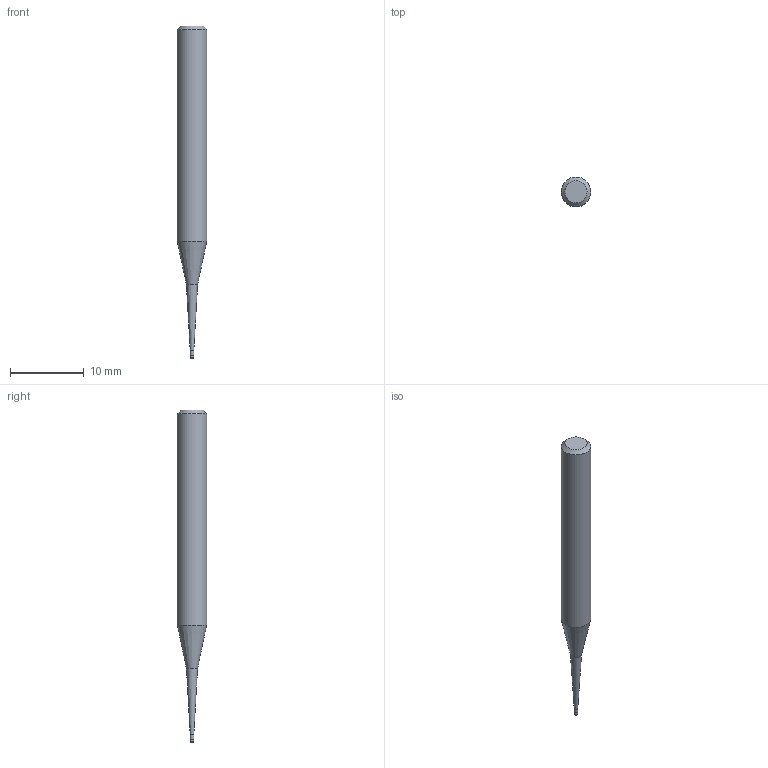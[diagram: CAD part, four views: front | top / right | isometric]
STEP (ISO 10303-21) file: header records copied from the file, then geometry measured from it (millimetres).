
FILE_DESCRIPTION((''),'2;1');
FILE_NAME('C:\Users\nsx150\AppData\Local\Temp\Mastercam 2021\YKS1SUSFZB\TEMP.step','2025-06-23T14:03:46',(''),(''),'STEP Write','Mastercam 2021 ... CNC Software, Inc.','');
FILE_SCHEMA(('AUTOMOTIVE_DESIGN'));
Length unit declared in the file: millimetre
Products named in the file (1): None
Bounding box: 4 x 4 x 45 mm (x, y, z)
Volume: 410.2 mm3; surface area: 457.1 mm2
Topology: 2 solids, 2 shells, 11 faces, 16 edges, 9 vertices
Faces by surface type: plane 4, cylinder 3, cone 3, torus 1
Full cylindrical faces by diameter (mm): 0.48 x1, 0.5 x1, 4 x1
Entity records: 253 total; most frequent: DIRECTION 44, CARTESIAN_POINT 31, AXIS2_PLACEMENT_3D 22, ORIENTED_EDGE 18, EDGE_LOOP 18, STYLED_ITEM 14, ADVANCED_FACE 11, FACE_BOUND 11
